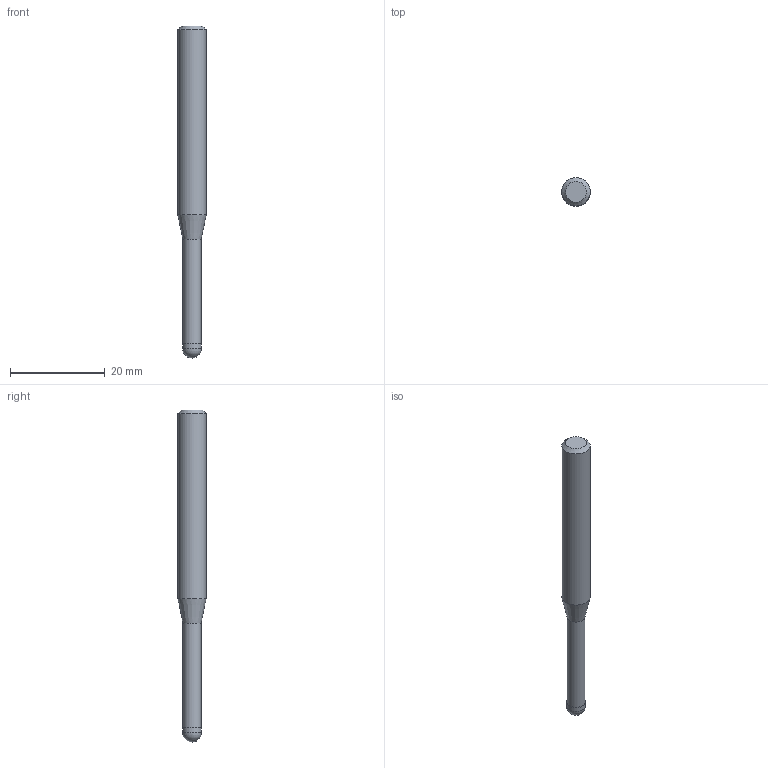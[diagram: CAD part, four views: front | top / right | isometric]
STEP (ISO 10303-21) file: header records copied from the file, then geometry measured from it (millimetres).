
FILE_DESCRIPTION((''),'2;1');
FILE_NAME('C:\Users\nsx150\AppData\Local\Temp\Mastercam 2021\ZXBT0ST9RL\TEMP.step','2021-06-25T11:03:28',(''),(''),'STEP Write','Mastercam 2021 ... CNC Software, Inc.','');
FILE_SCHEMA(('AUTOMOTIVE_DESIGN'));
Length unit declared in the file: millimetre
Products named in the file (1): None
Bounding box: 6 x 6 x 70 mm (x, y, z)
Volume: 1498.6 mm3; surface area: 1175 mm2
Topology: 2 solids, 2 shells, 9 faces, 14 edges, 8 vertices
Faces by surface type: plane 3, cylinder 3, cone 2, sphere 1
Full cylindrical faces by diameter (mm): 3.8 x1, 4 x1, 6 x1
Entity records: 211 total; most frequent: DIRECTION 36, CARTESIAN_POINT 25, AXIS2_PLACEMENT_3D 18, ORIENTED_EDGE 14, EDGE_LOOP 14, STYLED_ITEM 12, ADVANCED_FACE 9, FACE_BOUND 8
